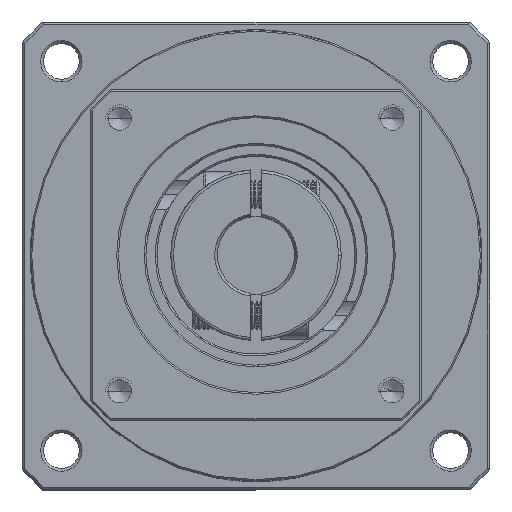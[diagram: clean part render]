
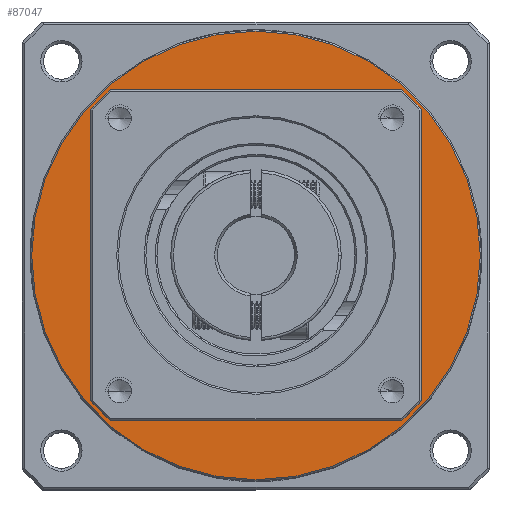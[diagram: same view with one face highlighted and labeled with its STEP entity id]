
A CAD part, top view. The second image highlights one B-rep face of the part: STEP entity #87047.
In plain terms, the highlighted planar face has unit normal (0, 0, 1).
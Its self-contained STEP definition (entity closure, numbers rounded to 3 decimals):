
#4533 = CIRCLE ( 'NONE', #113892, 40.75 ) ;
#5051 = DIRECTION ( 'NONE',  ( -1., 0., 0. ) ) ;
#5520 = EDGE_CURVE ( 'NONE', #106053, #58831, #4533, .T. ) ;
#8466 = EDGE_LOOP ( 'NONE', ( #118946, #13714 ) ) ;
#11166 = CARTESIAN_POINT ( 'NONE',  ( -65.62, 20.48, -16.146 ) ) ;
#12792 = EDGE_LOOP ( 'NONE', ( #92744, #58220 ) ) ;
#13714 = ORIENTED_EDGE ( 'NONE', *, *, #26085, .T. ) ;
#20485 = DIRECTION ( 'NONE',  ( -1., 0., 0. ) ) ;
#26085 = EDGE_CURVE ( 'NONE', #93554, #39957, #100026, .T. ) ;
#26182 = CARTESIAN_POINT ( 'NONE',  ( -65.62, 61.23, -16.146 ) ) ;
#27375 = DIRECTION ( 'NONE',  ( 0., 0., -1. ) ) ;
#30139 = EDGE_CURVE ( 'NONE', #39957, #93554, #42867, .T. ) ;
#38666 = PLANE ( 'NONE',  #110387 ) ;
#39957 = VERTEX_POINT ( 'NONE', #75603 ) ;
#41671 = CARTESIAN_POINT ( 'NONE',  ( -65.62, 20.48, -16.146 ) ) ;
#42076 = FACE_OUTER_BOUND ( 'NONE', #12792, .T. ) ;
#42867 = CIRCLE ( 'NONE', #63093, 30. ) ;
#48369 = DIRECTION ( 'NONE',  ( 0., 0., 1. ) ) ;
#48861 = CARTESIAN_POINT ( 'NONE',  ( -65.62, -20.27, -16.146 ) ) ;
#51002 = DIRECTION ( 'NONE',  ( 0., 1., 0. ) ) ;
#58220 = ORIENTED_EDGE ( 'NONE', *, *, #5520, .F. ) ;
#58831 = VERTEX_POINT ( 'NONE', #26182 ) ;
#60621 = DIRECTION ( 'NONE',  ( 0., 0., -1. ) ) ;
#63093 = AXIS2_PLACEMENT_3D ( 'NONE', #11166, #75939, #20485 ) ;
#72145 = AXIS2_PLACEMENT_3D ( 'NONE', #41671, #106211, #51002 ) ;
#75603 = CARTESIAN_POINT ( 'NONE',  ( -95.62, 20.48, -16.146 ) ) ;
#75939 = DIRECTION ( 'NONE',  ( 0., 0., -1. ) ) ;
#82797 = CARTESIAN_POINT ( 'NONE',  ( -65.62, 20.48, -16.146 ) ) ;
#87047 = ADVANCED_FACE ( 'NONE', ( #42076, #91317 ), #38666, .T. ) ;
#87937 = AXIS2_PLACEMENT_3D ( 'NONE', #115684, #60621, #5051 ) ;
#91317 = FACE_BOUND ( 'NONE', #8466, .T. ) ;
#92081 = DIRECTION ( 'NONE',  ( 0., 1., 0. ) ) ;
#92102 = CIRCLE ( 'NONE', #72145, 40.75 ) ;
#92744 = ORIENTED_EDGE ( 'NONE', *, *, #109821, .F. ) ;
#93554 = VERTEX_POINT ( 'NONE', #109041 ) ;
#100026 = CIRCLE ( 'NONE', #87937, 30. ) ;
#103564 = CARTESIAN_POINT ( 'NONE',  ( -65.62, 20.48, -16.146 ) ) ;
#106053 = VERTEX_POINT ( 'NONE', #48861 ) ;
#106211 = DIRECTION ( 'NONE',  ( 0., 0., -1. ) ) ;
#109041 = CARTESIAN_POINT ( 'NONE',  ( -35.62, 20.48, -16.146 ) ) ;
#109821 = EDGE_CURVE ( 'NONE', #58831, #106053, #92102, .T. ) ;
#110387 = AXIS2_PLACEMENT_3D ( 'NONE', #103564, #48369, #114394 ) ;
#113892 = AXIS2_PLACEMENT_3D ( 'NONE', #82797, #27375, #92081 ) ;
#114394 = DIRECTION ( 'NONE',  ( 1., 0., 0. ) ) ;
#115684 = CARTESIAN_POINT ( 'NONE',  ( -65.62, 20.48, -16.146 ) ) ;
#118946 = ORIENTED_EDGE ( 'NONE', *, *, #30139, .T. ) ;
